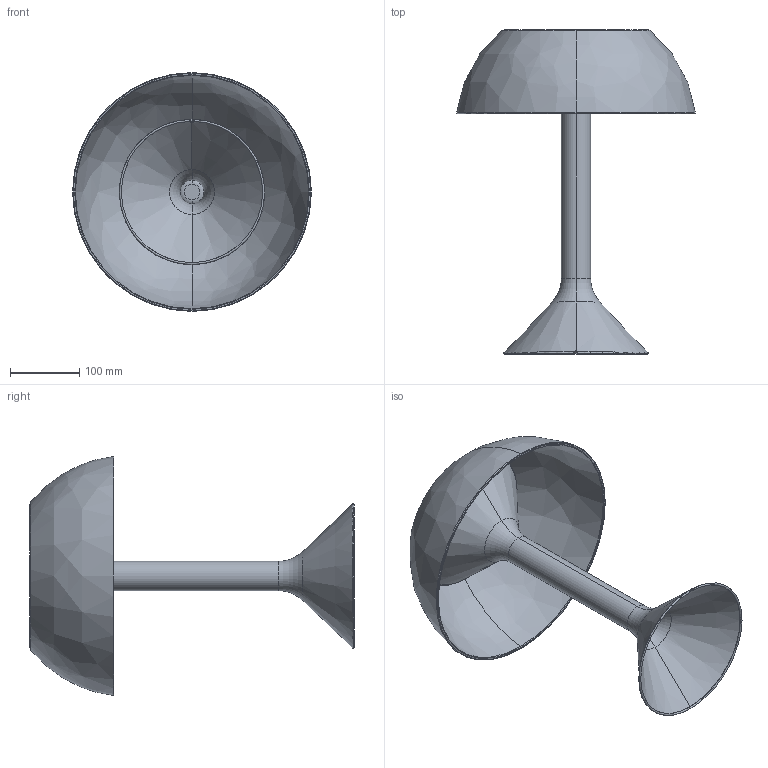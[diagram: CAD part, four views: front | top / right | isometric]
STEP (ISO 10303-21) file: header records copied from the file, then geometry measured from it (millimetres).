
FILE_DESCRIPTION (( 'STEP AP203' ), '1' );
FILE_NAME ('314_P_T_LD_3D.STEP', '2025-04-17T12:39:41', ( '' ), ( '' ), 'SwSTEP 2.0', 'SolidWorks 2024', '' );
FILE_SCHEMA (( 'CONFIG_CONTROL_DESIGN' ));
Length unit declared in the file: millimetre
Products named in the file (6): CN314000021_3D_CN314000021; 314_P_T_LD_3D; CN314000025_3D_CN314000025; CN314000018_3D_FINITO; CN314000010_3D; CN314000032_3D_FINITO
Assembly tree (5 placements, depth 3):
  314_P_T_LD_3D
    CN314000010_3D
    CN314000018_3D_FINITO
      CN314000021_3D_CN314000021
      CN314000025_3D_CN314000025
    CN314000032_3D_FINITO
Bounding box: 345.34 x 469 x 345.34 mm (x, y, z)
Volume: 1152028 mm3; surface area: 557883.3 mm2
Topology: 4 solids, 4 shells, 83 faces, 198 edges, 120 vertices
Faces by surface type: torus 27, bspline 22, cone 20, cylinder 7, plane 7
Entity records: 3872 total; most frequent: CARTESIAN_POINT 1382, DIRECTION 428, ORIENTED_EDGE 396, AXIS2_PLACEMENT_3D 200, EDGE_CURVE 198, CIRCLE 130, VERTEX_POINT 120, EDGE_LOOP 84
